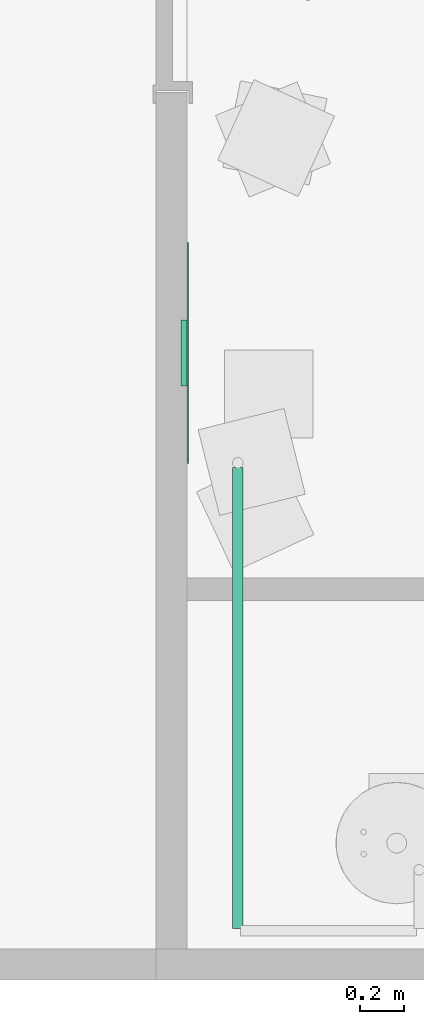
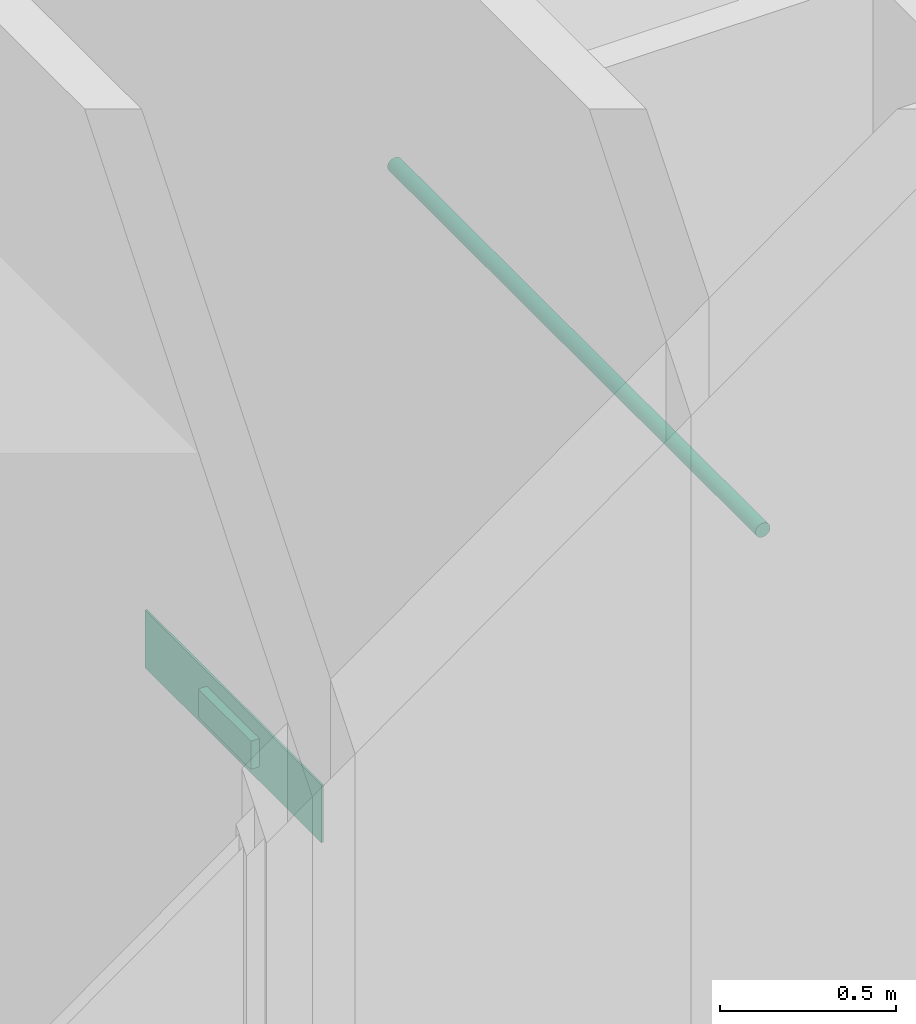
# One storey, part 20 of 72: 1 air terminal, 1 pipe segment.
"""IFC4 building model written with IfcOpenShell, lengths in centimetres."""

from ifc_helpers import new_model, entity, si_unit, converted_unit, derived_unit, direction, frame, origin, place, context, subcontext, project, spatial, arc, indexed_curve, outline, extrude, source, transform, mapped, material, constituent, constituent_set, type_object, type_shapes, element, save


model = new_model("IFC4")

# Units and contexts
model_context = context("Model", 3, precision=0.001, world=origin(), true_north=direction((6.123233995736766e-17, 1.0)))
body_context = subcontext(model_context, "Body", "Model", "MODEL_VIEW")
ifc_project = project(units=[si_unit("LENGTHUNIT", "METRE", prefix="CENTI"), si_unit("AREAUNIT", "SQUARE_METRE"), si_unit("VOLUMEUNIT", "CUBIC_METRE"), derived_unit("THERMALTRANSMITTANCEUNIT", [(si_unit("MASSUNIT", "GRAM", prefix="KILO"), 1), (si_unit("THERMODYNAMICTEMPERATUREUNIT", "KELVIN"), -1), (si_unit("TIMEUNIT", "SECOND"), -3)]), converted_unit("PLANEANGLEUNIT", "DEGREE", entity("IfcPlaneAngleMeasure", 0.017453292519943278), si_unit("PLANEANGLEUNIT", "RADIAN"), dimensions=[0, 0, 0, 0, 0, 0, 0]), derived_unit("MASSDENSITYUNIT", [(si_unit("MASSUNIT", "GRAM", prefix="KILO"), 1), (si_unit("LENGTHUNIT", "METRE"), -3)]), derived_unit("VAPORPERMEABILITYUNIT", [(si_unit("LENGTHUNIT", "METRE"), -1), (si_unit("TIMEUNIT", "SECOND"), 1)]), derived_unit("USERDEFINED", [(si_unit("MASSUNIT", "GRAM", prefix="KILO"), 1), (si_unit("TIMEUNIT", "SECOND"), -3), (si_unit("LENGTHUNIT", "METRE"), 3), (si_unit("ELECTRICCURRENTUNIT", "AMPERE"), -2)]), derived_unit("SPECIFICHEATCAPACITYUNIT", [(si_unit("THERMODYNAMICTEMPERATUREUNIT", "KELVIN"), -1), (si_unit("LENGTHUNIT", "METRE"), 2), (si_unit("TIMEUNIT", "SECOND"), -2)]), derived_unit("THERMALCONDUCTANCEUNIT", [(si_unit("MASSUNIT", "GRAM", prefix="KILO"), 1), (si_unit("THERMODYNAMICTEMPERATUREUNIT", "KELVIN"), -1), (si_unit("TIMEUNIT", "SECOND"), -3), (si_unit("LENGTHUNIT", "METRE"), 1)]), si_unit("PRESSUREUNIT", "PASCAL"), derived_unit("MODULUSOFELASTICITYUNIT", [(si_unit("MASSUNIT", "GRAM", prefix="KILO"), 1), (si_unit("LENGTHUNIT", "METRE"), -1), (si_unit("TIMEUNIT", "SECOND"), -2)]), derived_unit("THERMALEXPANSIONCOEFFICIENTUNIT", [(si_unit("THERMODYNAMICTEMPERATUREUNIT", "KELVIN"), -1)])], contexts=[model_context])

# Site, building, storey, space
site_placement = place(None, origin())
site = spatial("IfcSite", under=ifc_project, at=site_placement, Name="Default", CompositionType="ELEMENT")
building_placement = place(site_placement, origin())
building = spatial("IfcBuilding", under=site, at=building_placement, Name="IDS Escape Game Building", CompositionType="ELEMENT")
storey_placement = place(building_placement, frame((0.0, 0.0, 800.0)))
storey = spatial("IfcBuildingStorey", under=building, at=storey_placement, Name="02_Second Floor", CompositionType="ELEMENT", Elevation=800.0)
space_placement = place(storey_placement, origin())
space = spatial("IfcSpace", under=storey, at=space_placement, Name="74", CompositionType="ELEMENT", PredefinedType="NOTDEFINED")

# Air terminal
ifc_material_1 = material(Name="TB_LVC_referentievlak_00_gen_BERSnl", Category="BE Default")
ifc_constituent_1 = constituent(ifc_material_1, Name="TB_LVC_referentievlak_00_gen_BERSnl", Category="BE Default", fraction=0.00014157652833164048)
ifc_material_2 = material(Name="ARC_FME.h2_staal_00_gen_BERSnl", Category="h - metaal")
ifc_constituent_2 = constituent(ifc_material_2, Name="ARC_FME.h2_staal_00_gen_BERSnl", Category="h - metaal", fraction=0.9998584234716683)
ifc_constituent_set_1 = constituent_set(constituents=[ifc_constituent_1, ifc_constituent_2])
ifc_constituent_3 = constituent(ifc_material_1, Name="BE Referentievlak", Category="BE Default", fraction=0.00014157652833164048)
ifc_constituent_4 = constituent(ifc_material_2, Name="Terminals", Category="h - metaal", fraction=0.9998584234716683)
ifc_constituent_set_2 = constituent_set(constituents=[ifc_constituent_3, ifc_constituent_4])
air_terminal_type = type_object("IfcAirTerminalType", Name="TB_57_AIR_FB_aanzuigrooster - 1 rechthoekige aansluiting - calculated flow_gen_BERSnl:Air Terminal - Exhaust", PredefinedType="GRILLE", material=ifc_constituent_set_2)
shared_shape = source(origin(), body_context, "Body", "SweptSolid", [
    extrude(outline(indexed_curve([(-0.5, -2.0290176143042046e-15), (6.8507733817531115e-16, -0.5000000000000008), (0.5, 2.0290176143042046e-15), (-5.361679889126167e-16, 0.49999999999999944)], segments=[arc(1, 2, 3), arc(3, 4, 1)], self_intersect=False)), frame((0.0, 0.0, 0.0), z_axis=(1.7453292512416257e-05, 0.0, 1.0), x_axis=(0.0, 1.0, 0.0)), (0.0, 0.0, 1.0), 0.09999999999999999),
    extrude(outline(indexed_curve([(-14.900000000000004, -4.9), (14.900000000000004, -4.9), (14.900000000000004, 4.9), (-14.900000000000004, 4.9), (-14.900000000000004, -4.9)], self_intersect=False)), frame((-4.886921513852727e-05, 0.0, -2.7999999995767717)), (0.0, 0.0, 1.0), 2.7999999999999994),
    extrude(outline(indexed_curve([(-50.0, -10.0), (50.0, -10.0), (50.0, 10.0), (-50.0, 10.0), (-50.0, -10.0)], self_intersect=False)), frame((0.0, 0.0, 0.0), z_axis=(0.0, 0.0, 1.0), x_axis=(-1.0, 0.0, 0.0)), (0.0, 0.0, 1.0), 0.6999999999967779),
])
type_shapes(air_terminal_type, [shared_shape])
air_terminal_placement = place(space_placement, frame((2221.0, 283.0, 24.0), z_axis=(1.0, 0.0, 0.0), x_axis=(0.0, 1.0, 0.0)))
element("IfcAirTerminal", 1, at=air_terminal_placement, inside=space, type_object=air_terminal_type, material=ifc_constituent_set_1, Name="TB_57_AIR_FB_aanzuigrooster - 1 rechthoekige aansluiting - calculated flow_gen_BERSnl:Air Terminal - Exhaust", ObjectType="TB_57_AIR_FB_aanzuigrooster - 1 rechthoekige aansluiting - calculated flow_gen_BERSnl:Air Terminal - Exhaust", PredefinedType="GRILLE", context=body_context, shape_type="MappedRepresentation", body=[
    mapped(shared_shape, transform((0.0, 0.0, 0.0), scale=1.0)),
])

# Pipe segment
pipe_segment_type = type_object("IfcPipeSegmentType", Name="Pipe Types:Piping Aluminum", PredefinedType="NOTDEFINED")
pipe_segment_placement = place(storey_placement, origin())
element("IfcPipeSegment", 2, at=pipe_segment_placement, inside=storey, type_object=pipe_segment_type, Name="Pipe Types:Piping Aluminum", ObjectType="Pipe Types:Piping Aluminum", PredefinedType="NOTDEFINED", context=body_context, shape_type="SweptSolid", body=[
    extrude(outline(indexed_curve([(2.412999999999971, 0.0), (1.7062486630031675, 1.7062486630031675), (0.0, 2.412999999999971), (-1.7062486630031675, 1.7062486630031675), (-2.412999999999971, 0.0), (-1.7062486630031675, -1.7062486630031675), (0.0, -2.412999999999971), (1.7062486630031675, -1.7062486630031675)], segments=[arc(1, 2, 3), arc(3, 4, 5), arc(5, 6, 7), arc(7, 8, 1)], self_intersect=False)), frame((2244.0467168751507, 22.36482792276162, 242.0), z_axis=(0.0, 1.0, 0.0), x_axis=(1.0, 0.0, 0.0)), (0.0, 0.0, 1.0), 208.80000000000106),
])

save(model, "model.ifc")
